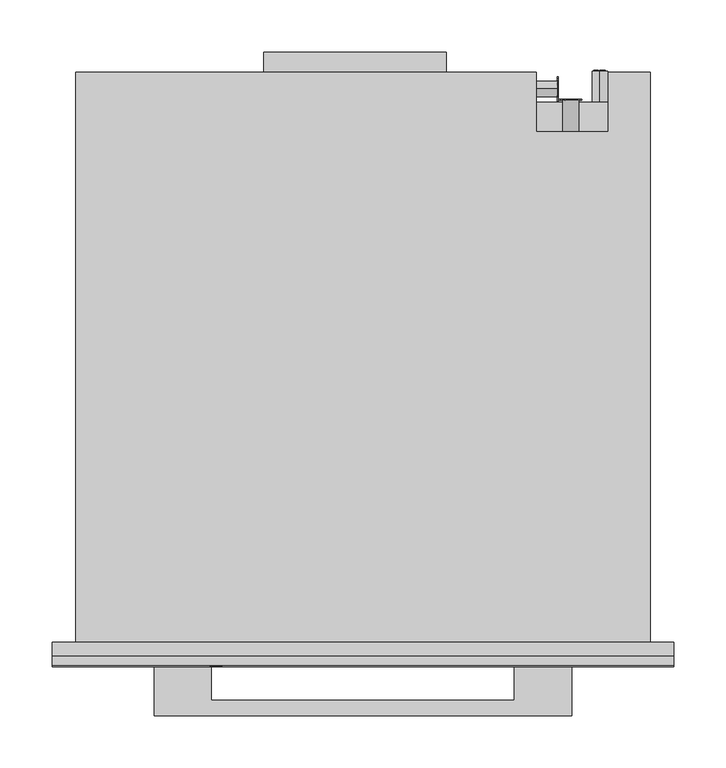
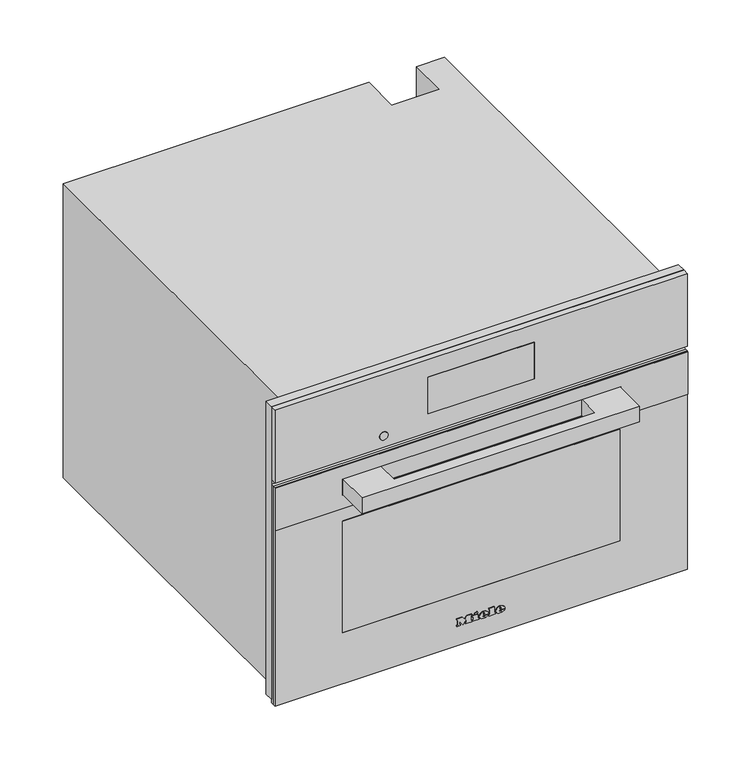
"""IFC4 building model written with IfcOpenShell, lengths in millimetres: proxy geometry, 11876580_USA_DGC7845_EDST-CLST : 23784542_USA_11876580_DGC7845_EDST-CLST."""

from ifc_helpers import new_model, si_unit, point, frame, frame_2d, origin, place, context, project, spatial, polyline, circle_curve, ellipse_curve, trimmed, segment, composite_curve, outline, extrude, faceted_brep, source, transform, mapped, element, save
from ifc_brep_helpers import plane_surface, cylinder_surface, revolved_surface, extruded_surface, advanced_brep


def specialty_equipment_0c457f22(model_context):
    return source(origin(), model_context, "Body", "SolidModel", [
        extrude(outline(polyline([(455.0, 297.5), (455.0, -297.5), (9.0, -297.5), (9.0, 297.5), (455.0, 297.5)]), holes=[polyline([(344.0, -272.5), (344.0, 272.5), (27.0, 272.5), (27.0, -272.5), (344.0, -272.5)])]), frame((0.0, -13.0, 0.0), z_axis=(0.0, 1.0, 0.0), x_axis=(0.0, 0.0, 1.0)), (0.0, 0.0, 1.0), 13.0),
        extrude(outline(polyline([(-95.0, 565.0), (80.0, 565.0), (80.0, 546.0), (-95.0, 546.0), (-95.0, 565.0)])), frame((0.0, 0.0, 260.0), z_axis=(0.0, 0.0, 1.0), x_axis=(1.0, 0.0, 0.0)), (0.0, 0.0, 1.0), 1.0),
        extrude(outline(polyline([(519.6429442, 19.9943805), (518.3113439, 19.9943805), (522.3179353, 30.0448542), (523.3959224, 30.0448542), (527.4062166, 20.0), (526.0536081, 20.0), (524.9175759, 23.121223), (520.7810217, 23.121223), (519.6429442, 19.9943805)]), holes=[polyline([(521.2587176, 24.4336815), (524.43988, 24.4336815), (522.8492988, 28.8037675), (521.2587176, 24.4336815)])]), frame((186.0, 0.0, 0.0), z_axis=(1.0, 0.0, 0.0), x_axis=(0.0, 1.0, 0.0)), (0.0, 0.0, 1.0), 1.0),
        extrude(outline(polyline([(530.5321321, 20.0), (527.8018067, 30.0490432), (529.0968223, 30.0490432), (531.1602937, 21.4201336), (533.686646, 30.0556718), (535.5455392, 30.0556718), (538.1024658, 21.4662572), (540.1658975, 30.0556718), (541.4634812, 30.0556718), (538.7128319, 20.0), (537.3799359, 20.0), (534.6350025, 28.8403806), (532.048723, 20.0), (530.5321321, 20.0)])), frame((186.0, 0.0, 0.0), z_axis=(1.0, 0.0, 0.0), x_axis=(0.0, 1.0, 0.0)), (0.0, 0.0, 1.0), 1.0),
        extrude(outline(polyline([(383.0, 196.9217896), (383.0, 198.4267862), (393.0435673, 201.1942402), (393.0435673, 199.9014806), (384.4295103, 197.7797951), (393.0470645, 195.3087512), (393.0470645, 193.4373937), (384.4121052, 190.9191482), (393.0472266, 188.8443938), (393.0472266, 187.5376524), (383.0, 190.2769667), (383.0, 191.6257455), (391.8347238, 194.3884733), (383.0, 196.9217896)])), frame((0.0, 519.0, 0.0), z_axis=(0.0, 1.0, 0.0), x_axis=(0.0, 0.0, 1.0)), (0.0, 0.0, 1.0), 1.0),
        extrude(outline(polyline([(393.0468463, 209.521488), (393.0468463, 208.2566067), (388.129594, 208.2566067), (393.0474898, 203.1074328), (393.0474898, 201.3597489), (388.9313111, 205.6695027), (383.0, 201.1858157), (383.0, 202.7358731), (388.0700777, 206.5685235), (386.4282746, 208.2823622), (383.0, 208.2823622), (383.0, 209.521488), (393.0468463, 209.521488)])), frame((0.0, 519.0, 0.0), z_axis=(0.0, 1.0, 0.0), x_axis=(0.0, 0.0, 1.0)), (0.0, 0.0, 1.0), 1.0),
        advanced_brep(
        [(227.0, 547.0, 255.5), (227.0, 547.0, 240.5), (221.4098301, 547.0, 243.0), (225.5, 547.0, 243.0), (225.5, 547.0, 253.0), (224.4955303, 547.0, 253.0), (224.4955303, 547.0, 244.0), (221.0315043, 547.0, 244.0), (221.0315043, 547.0, 243.4582978), (232.0, 547.0, 243.0), (232.0, 547.0, 253.0), (227.0, 547.0, 253.0), (227.0, 547.0, 252.0), (231.0, 547.0, 252.0), (231.0, 547.0, 248.5), (228.0, 547.0, 248.5), (228.0, 547.0, 247.5), (231.0, 547.0, 247.5), (231.0, 547.0, 244.0), (227.0, 547.0, 244.0), (227.0, 547.0, 243.0), (227.0, 517.0, 240.5), (227.0, 517.0, 255.5), (232.0, 548.0, 253.0), (232.0, 548.0, 243.0), (227.0, 548.0, 243.0), (227.0, 548.0, 244.0), (231.0, 548.0, 244.0), (231.0, 548.0, 247.5), (228.0, 548.0, 247.5), (228.0, 548.0, 248.5), (231.0, 548.0, 248.5), (231.0, 548.0, 252.0), (227.0, 548.0, 252.0), (227.0, 548.0, 253.0), (225.5, 548.0, 243.0), (221.0315043, 548.0, 243.0), (221.0315043, 548.0, 244.0), (224.4955303, 548.0, 244.0), (224.4955303, 548.0, 253.0), (225.5, 548.0, 253.0), (221.0315043, 547.0, 243.0)],
        [
            (0, 1, circle_curve(frame((227.0, 547.0, 248.0), z_axis=(0.0, 1.0, 0.0), x_axis=(0.0, 0.0, 1.0)), 7.5)),
            (1, 2, circle_curve(frame((227.0, 547.0, 248.0), z_axis=(0.0, 1.0, 0.0), x_axis=(0.0, 0.0, 1.0)), 7.5)),
            (2, 3),
            (3, 4),
            (4, 5),
            (5, 6),
            (6, 7),
            (7, 8),
            (8, 0, circle_curve(frame((227.0, 547.0, 248.0), z_axis=(0.0, 1.0, 0.0), x_axis=(0.0, 0.0, 1.0)), 7.5)),
            (9, 10),
            (10, 11),
            (11, 12),
            (12, 13),
            (13, 14),
            (14, 15),
            (15, 16),
            (16, 17),
            (17, 18),
            (18, 19),
            (19, 20),
            (20, 9),
            (21, 22, circle_curve(frame((227.0, 517.0, 248.0), z_axis=(0.0, -1.0, 0.0), x_axis=(0.0, 0.0, 1.0)), 7.5)),
            (22, 21, circle_curve(frame((227.0, 517.0, 248.0), z_axis=(0.0, -1.0, 0.0), x_axis=(0.0, 0.0, 1.0)), 7.5)),
            (0, 22),
            (21, 1),
            (8, 2, circle_curve(frame((227.0, 547.0, 248.0), z_axis=(0.0, -1.0, 0.0), x_axis=(0.0, 0.0, 1.0)), 7.5)),
            (23, 24),
            (24, 25),
            (25, 26),
            (26, 27),
            (27, 28),
            (28, 29),
            (29, 30),
            (30, 31),
            (31, 32),
            (32, 33),
            (33, 34),
            (34, 23),
            (35, 36),
            (36, 37),
            (37, 38),
            (38, 39),
            (39, 40),
            (40, 35),
            (8, 41),
            (41, 2),
            (23, 10),
            (9, 24),
            (20, 25),
            (19, 26),
            (18, 27),
            (17, 28),
            (16, 29),
            (15, 30),
            (14, 31),
            (13, 32),
            (12, 33),
            (11, 34),
            (35, 3),
            (41, 36),
            (7, 37),
            (6, 38),
            (5, 39),
            (4, 40),
        ],
        [
            plane_surface(frame((227.0, 547.0, 255.5), z_axis=(0.0, 1.0, 0.0), x_axis=(1.0, 0.0, 0.0))),
            plane_surface(frame((227.0, 517.0, 255.5), z_axis=(0.0, -1.0, 0.0), x_axis=(-1.0, 0.0, 0.0))),
            cylinder_surface(frame((227.0, 547.0, 248.0), z_axis=(0.0, -1.0, 0.0), x_axis=(0.0, 0.0, 1.0)), 7.5),
            plane_surface(frame((232.0, 548.0, 253.0), z_axis=(0.0, 1.0, 0.0), x_axis=(0.0, 0.0, -1.0))),
            plane_surface(frame((232.0, 547.0, 253.0), z_axis=(0.0, -1.0, 0.0), x_axis=(0.0, 0.0, 1.0))),
            plane_surface(frame((232.0, 548.0, 253.0), z_axis=(1.0, 0.0, 0.0), x_axis=(0.0, -1.0, 0.0))),
            plane_surface(frame((232.0, 548.0, 243.0), z_axis=(0.0, 0.0, -1.0), x_axis=(0.0, -1.0, 0.0))),
            plane_surface(frame((227.0, 548.0, 243.0), z_axis=(-1.0, 0.0, 0.0), x_axis=(0.0, -1.0, 0.0))),
            plane_surface(frame((227.0, 548.0, 244.0), z_axis=(0.0, 0.0, 1.0), x_axis=(0.0, -1.0, 0.0))),
            plane_surface(frame((231.0, 548.0, 244.0), z_axis=(-1.0, 0.0, 0.0), x_axis=(0.0, -1.0, 0.0))),
            plane_surface(frame((231.0, 548.0, 247.5), z_axis=(0.0, 0.0, -1.0), x_axis=(0.0, -1.0, 0.0))),
            plane_surface(frame((228.0, 548.0, 247.5), z_axis=(-1.0, 0.0, 0.0), x_axis=(0.0, -1.0, 0.0))),
            plane_surface(frame((228.0, 548.0, 248.5), z_axis=(0.0, 0.0, 1.0), x_axis=(0.0, -1.0, 0.0))),
            plane_surface(frame((231.0, 548.0, 248.5), z_axis=(-1.0, 0.0, 0.0), x_axis=(0.0, -1.0, 0.0))),
            plane_surface(frame((231.0, 548.0, 252.0), z_axis=(0.0, 0.0, -1.0), x_axis=(0.0, -1.0, 0.0))),
            plane_surface(frame((227.0, 548.0, 252.0), z_axis=(-1.0, 0.0, 0.0), x_axis=(0.0, -1.0, 0.0))),
            plane_surface(frame((227.0, 548.0, 253.0), z_axis=(0.0, 0.0, 1.0), x_axis=(0.0, -1.0, 0.0))),
            plane_surface(frame((225.5, 548.0, 243.0), z_axis=(0.0, 0.0, -1.0), x_axis=(0.0, -1.0, 0.0))),
            plane_surface(frame((221.0315043, 548.0, 243.0), z_axis=(-1.0, 0.0, 0.0), x_axis=(0.0, -1.0, 0.0))),
            plane_surface(frame((221.0315043, 548.0, 244.0), z_axis=(0.0, 0.0, 1.0), x_axis=(0.0, -1.0, 0.0))),
            plane_surface(frame((224.4955303, 548.0, 244.0), z_axis=(-1.0, 0.0, 0.0), x_axis=(0.0, -1.0, 0.0))),
            plane_surface(frame((224.4955303, 548.0, 253.0), z_axis=(0.0, 0.0, 1.0), x_axis=(0.0, -1.0, 0.0))),
            plane_surface(frame((225.5, 548.0, 253.0), z_axis=(1.0, 0.0, 0.0), x_axis=(0.0, -1.0, 0.0))),
        ],
        [
            (0, [[1, 2, 3, 4, 5, 6, 7, 8, 9], [10, 11, 12, 13, 14, 15, 16, 17, 18, 19, 20, 21]]),
            (1, [[22, 23]]),
            (2, [[-1, 24, -22, 25]]),
            (2, [[-23, -24, -9, 26, -2, -25]]),
            (3, [[27, 28, 29, 30, 31, 32, 33, 34, 35, 36, 37, 38]]),
            (3, [[39, 40, 41, 42, 43, 44]]),
            (4, [[45, 46, -26]]),
            (5, [[-27, 47, -10, 48]]),
            (6, [[-28, -48, -21, 49]]),
            (7, [[-29, -49, -20, 50]]),
            (8, [[-30, -50, -19, 51]]),
            (9, [[-31, -51, -18, 52]]),
            (10, [[-32, -52, -17, 53]]),
            (11, [[-33, -53, -16, 54]]),
            (12, [[-34, -54, -15, 55]]),
            (13, [[-35, -55, -14, 56]]),
            (14, [[-36, -56, -13, 57]]),
            (15, [[-37, -57, -12, 58]]),
            (16, [[-38, -58, -11, -47]]),
            (17, [[-39, 59, -3, -46, 60]]),
            (18, [[-40, -60, -45, -8, 61]]),
            (19, [[-41, -61, -7, 62]]),
            (20, [[-42, -62, -6, 63]]),
            (21, [[-43, -63, -5, 64]]),
            (22, [[-44, -64, -4, -59]]),
        ],
    ),
        extrude(outline(composite_curve([segment(trimmed(circle_curve(frame_2d((388.0, 199.0)), 7.5), [point((388.0, 206.5))], [point((388.0, 191.5))], False, "CARTESIAN"), True, "CONTINUOUS"), segment(trimmed(circle_curve(frame_2d((388.0, 199.0)), 7.5), [point((388.0, 191.5))], [point((388.0, 206.5))], False, "CARTESIAN"), True, "CONTINUOUS")], self_intersect=False)), frame((0.0, 489.0, 0.0), z_axis=(0.0, 1.0, 0.0), x_axis=(0.0, 0.0, 1.0)), (0.0, 0.0, 1.0), 30.0),
        extrude(outline(composite_curve([segment(trimmed(circle_curve(frame_2d((530.0, 25.0)), 7.5), [point((530.0, 17.5))], [point((530.0, 32.5))], False, "CARTESIAN"), True, "CONTINUOUS"), segment(trimmed(circle_curve(frame_2d((530.0, 25.0)), 7.5), [point((530.0, 32.5))], [point((530.0, 17.5))], False, "CARTESIAN"), True, "CONTINUOUS")], self_intersect=False)), frame((166.0, 0.0, 0.0), z_axis=(1.0, 0.0, 0.0), x_axis=(0.0, 1.0, 0.0)), (0.0, 0.0, 1.0), 20.0),
        faceted_brep([(-275.0, 546.0, 0.0), (-275.0, 546.0, 448.0), (166.0, 546.0, 448.0), (166.0, 546.0, 0.0), (235.0, 546.0, 448.0), (275.0, 546.0, 448.0), (275.0, 546.0, 338.0), (235.0, 546.0, 338.0), (275.0, 0.0, 448.0), (-275.0, 0.0, 448.0), (-275.0, 0.0, 0.0), (275.0, 0.0, 0.0), (-272.5, 0.0, 344.0), (272.5, 0.0, 344.0), (272.5, 0.0, 27.0), (-272.5, 0.0, 27.0), (235.0, 489.0, 448.0), (166.0, 489.0, 448.0), (166.0, 517.0, 0.0), (275.0, 517.0, 0.0), (275.0, 517.0, 338.0), (272.5, 17.0, 344.0), (-272.5, 17.0, 344.0), (-272.5, 17.0, 27.0), (272.5, 17.0, 27.0), (231.0, 17.0, 307.0), (231.0, 17.0, 65.0), (-231.0, 17.0, 65.0), (-231.0, 17.0, 307.0), (231.0, 411.0, 307.0), (-231.0, 411.0, 307.0), (-231.0, 411.0, 65.0), (231.0, 411.0, 65.0), (235.0, 489.0, 337.0), (166.0, 489.0, 337.0), (166.0, 517.0, 337.0), (235.0, 517.0, 337.0), (235.0, 517.0, 338.0)], [[[0, 1, 2, 3]], [[4, 5, 6, 7]], [[8, 9, 10, 11], [12, 13, 14, 15]], [[9, 8, 5, 4, 16, 17, 2, 1]], [[1, 0, 10, 9]], [[11, 10, 0, 3, 18, 19]], [[8, 11, 19, 20, 6, 5]], [[21, 22, 23, 24], [25, 26, 27, 28]], [[22, 21, 13, 12]], [[23, 22, 12, 15]], [[24, 23, 15, 14]], [[21, 24, 14, 13]], [[29, 30, 31, 32]], [[29, 32, 26, 25]], [[32, 31, 27, 26]], [[31, 30, 28, 27]], [[30, 29, 25, 28]], [[16, 33, 34, 17]], [[17, 34, 35, 18, 3, 2]], [[34, 33, 36, 35]], [[33, 16, 4, 7, 37, 36]], [[37, 20, 19, 18, 35, 36]], [[20, 37, 7, 6]]]),
        advanced_brep(
        [(26.2998, -23.0, 36.7018), (26.2998, -23.0, 37.8532), (33.9264, -23.0, 37.8532), (20.6568, -23.0, 37.8532), (23.7918, -23.0, 34.0), (33.7326, -23.0, 36.7018), (30.2898, -23.0, 36.7018), (27.5766, -23.0, 35.425), (26.2998, -23.0, 39.3124), (26.2998, -23.0, 40.555), (28.2492, -23.0, 40.555), (28.2492, -23.0, 39.3124), (26.2998, -22.0, 36.7018), (27.5766, -22.0, 35.425), (30.2898, -22.0, 36.7018), (33.7326, -22.0, 36.7018), (23.7918, -22.0, 34.0), (20.6568, -22.0, 37.8532), (33.9264, -22.0, 37.8532), (26.2998, -22.0, 37.8532), (26.2998, -22.0, 39.3124), (28.2492, -22.0, 39.3124), (28.2492, -22.0, 40.555), (26.2998, -22.0, 40.555)],
        [
            (0, 1),
            (1, 2),
            (2, 3, ellipse_curve(frame((27.2916, -23.0, 37.8532), z_axis=(0.0, -1.0, 0.0), x_axis=(-1.0, 0.0, 0.0)), 6.6348, 5.4834)),
            (3, 4, circle_curve(frame((25.0686622, -23.0, 38.2408), z_axis=(0.0, -1.0, 0.0), x_axis=(0.0, 0.0, -1.0)), 4.4288556)),
            (4, 5, circle_curve(frame((27.1587808, -23.0, 41.2504), z_axis=(0.0, -1.0, 0.0), x_axis=(0.0, 0.0, -1.0)), 7.9940516)),
            (5, 6),
            (6, 7, circle_curve(frame((28.1338588, -23.0, 37.762), z_axis=(0.0, 1.0, 0.0), x_axis=(0.0, 0.0, -1.0)), 2.4025208)),
            (7, 0, circle_curve(frame((27.5766, -23.0, 36.7018), z_axis=(0.0, 1.0, 0.0), x_axis=(0.0, 0.0, -1.0)), 1.2768)),
            (8, 9),
            (9, 10, circle_curve(frame((27.2745, -23.0, 40.555), z_axis=(0.0, 1.0, 0.0), x_axis=(0.0, 0.0, -1.0)), 0.9747)),
            (10, 11),
            (11, 8),
            (12, 13, circle_curve(frame((27.5766, -22.0, 36.7018), z_axis=(0.0, -1.0, 0.0), x_axis=(0.0, 0.0, -1.0)), 1.2768)),
            (13, 14, circle_curve(frame((28.1338588, -22.0, 37.762), z_axis=(0.0, -1.0, 0.0), x_axis=(0.0, 0.0, -1.0)), 2.4025208)),
            (14, 15),
            (15, 16, circle_curve(frame((27.1587808, -22.0, 41.2504), z_axis=(0.0, 1.0, 0.0), x_axis=(0.0, 0.0, -1.0)), 7.9940516)),
            (16, 17, circle_curve(frame((25.0686622, -22.0, 38.2408), z_axis=(0.0, 1.0, 0.0), x_axis=(0.0, 0.0, -1.0)), 4.4288556)),
            (17, 18, ellipse_curve(frame((27.2916, -22.0, 37.8532), z_axis=(0.0, 1.0, 0.0), x_axis=(-1.0, 0.0, 0.0)), 6.6348, 5.4834)),
            (18, 19),
            (19, 12),
            (20, 21),
            (21, 22),
            (22, 23, circle_curve(frame((27.2745, -22.0, 40.555), z_axis=(0.0, -1.0, 0.0), x_axis=(0.0, 0.0, -1.0)), 0.9747)),
            (23, 20),
            (0, 12),
            (19, 1),
            (18, 2),
            (5, 15),
            (14, 6),
            (17, 3),
            (13, 7),
            (16, 4),
            (8, 20),
            (23, 9),
            (22, 10),
            (21, 11),
        ],
        [
            plane_surface(frame((26.2998, -23.0, 37.8532), z_axis=(0.0, -1.0, 0.0), x_axis=(0.0, 0.0, 1.0))),
            plane_surface(frame((26.2998, -22.0, 37.8532), z_axis=(0.0, 1.0, 0.0), x_axis=(0.0, 0.0, -1.0))),
            plane_surface(frame((26.2998, -23.0, 36.7018), z_axis=(1.0, 0.0, 0.0), x_axis=(0.0, 1.0, 0.0))),
            plane_surface(frame((26.2998, -23.0, 37.8532), z_axis=(0.0, 0.0, -1.0), x_axis=(0.0, 1.0, 0.0))),
            plane_surface(frame((33.7326, -23.0, 36.7018), z_axis=(0.0, 0.0, 1.0), x_axis=(0.0, 1.0, 0.0))),
            extruded_surface(trimmed(ellipse_curve(frame((27.2916, -21.0, 37.8532), z_axis=(0.0, -1.0, 0.0), x_axis=(-1.0, 0.0, 0.0)), 6.6348, 5.4834), [point((33.9264, -21.0, 37.8532))], [point((20.6568, -21.0, 37.8532))], True, "CARTESIAN"), (0.0, -1.0, 0.0), 1.0),
            revolved_surface(polyline([(28.1338588, -22.0, 35.3594792), (28.1338588, -23.0, 35.3594792)]), (28.1338588, -22.0, 37.762), (0.0, 1.0, 0.0)),
            revolved_surface(polyline([(27.5766, -22.0, 35.425), (27.5766, -23.0, 35.425)]), (27.5766, -22.0, 36.7018), (0.0, 1.0, 0.0)),
            cylinder_surface(frame((25.0686622, -22.0, 38.2408), z_axis=(0.0, -1.0, 0.0), x_axis=(0.0, 0.0, -1.0)), 4.4288556),
            cylinder_surface(frame((27.1587808, -22.0, 41.2504), z_axis=(0.0, -1.0, 0.0), x_axis=(0.0, 0.0, -1.0)), 7.9940516),
            plane_surface(frame((26.2998, -23.0, 39.3124), z_axis=(1.0, 0.0, 0.0), x_axis=(0.0, 1.0, 0.0))),
            revolved_surface(polyline([(27.2745, -22.0, 39.5803), (27.2745, -23.0, 39.5803)]), (27.2745, -22.0, 40.555), (0.0, 1.0, 0.0)),
            plane_surface(frame((28.2492, -23.0, 40.555), z_axis=(-1.0, 0.0, 0.0), x_axis=(0.0, 1.0, 0.0))),
            plane_surface(frame((28.2492, -23.0, 39.3124), z_axis=(0.0, 0.0, 1.0), x_axis=(0.0, 1.0, 0.0))),
        ],
        [
            (0, [[1, 2, 3, 4, 5, 6, 7, 8], [9, 10, 11, 12]]),
            (1, [[13, 14, 15, 16, 17, 18, 19, 20], [21, 22, 23, 24]]),
            (2, [[-1, 25, -20, 26]]),
            (3, [[-2, -26, -19, 27]]),
            (4, [[-6, 28, -15, 29]]),
            (5, [[-3, -27, -18, 30]]),
            (6, [[-7, -29, -14, 31]]),
            (7, [[-8, -31, -13, -25]]),
            (8, [[-4, -30, -17, 32]]),
            (9, [[-5, -32, -16, -28]]),
            (10, [[-9, 33, -24, 34]]),
            (11, [[-10, -34, -23, 35]]),
            (12, [[-11, -35, -22, 36]]),
            (13, [[-12, -36, -21, -33]]),
        ],
    ),
        advanced_brep(
        [(2.508, -23.0, 36.7018), (2.508, -23.0, 37.8532), (10.1346, -23.0, 37.8532), (-3.135, -23.0, 37.8532), (0.0, -23.0, 34.0), (9.9408, -23.0, 36.7018), (6.498, -23.0, 36.7018), (3.7848, -23.0, 35.425), (2.508, -23.0, 39.3124), (2.508, -23.0, 40.555), (4.4574, -23.0, 40.555), (4.4574, -23.0, 39.3124), (2.508, -22.0, 36.7018), (3.7848, -22.0, 35.425), (6.498, -22.0, 36.7018), (9.9408, -22.0, 36.7018), (0.0, -22.0, 34.0), (-3.135, -22.0, 37.8532), (10.1346, -22.0, 37.8532), (2.508, -22.0, 37.8532), (2.508, -22.0, 39.3124), (4.4574, -22.0, 39.3124), (4.4574, -22.0, 40.555), (2.508, -22.0, 40.555)],
        [
            (0, 1),
            (1, 2),
            (2, 3, ellipse_curve(frame((3.4998, -23.0, 37.8532), z_axis=(0.0, -1.0, 0.0), x_axis=(-1.0, 0.0, 0.0)), 6.6348, 5.4834)),
            (3, 4, circle_curve(frame((1.2768622, -23.0, 38.2408), z_axis=(0.0, -1.0, 0.0), x_axis=(0.0, 0.0, -1.0)), 4.4288556)),
            (4, 5, circle_curve(frame((3.3669808, -23.0, 41.2504), z_axis=(0.0, -1.0, 0.0), x_axis=(0.0, 0.0, -1.0)), 7.9940516)),
            (5, 6),
            (6, 7, circle_curve(frame((4.3420588, -23.0, 37.762), z_axis=(0.0, 1.0, 0.0), x_axis=(0.0, 0.0, -1.0)), 2.4025208)),
            (7, 0, circle_curve(frame((3.7848, -23.0, 36.7018), z_axis=(0.0, 1.0, 0.0), x_axis=(0.0, 0.0, -1.0)), 1.2768)),
            (8, 9),
            (9, 10, circle_curve(frame((3.4827, -23.0, 40.555), z_axis=(0.0, 1.0, 0.0), x_axis=(0.0, 0.0, -1.0)), 0.9747)),
            (10, 11),
            (11, 8),
            (12, 13, circle_curve(frame((3.7848, -22.0, 36.7018), z_axis=(0.0, -1.0, 0.0), x_axis=(0.0, 0.0, -1.0)), 1.2768)),
            (13, 14, circle_curve(frame((4.3420588, -22.0, 37.762), z_axis=(0.0, -1.0, 0.0), x_axis=(0.0, 0.0, -1.0)), 2.4025208)),
            (14, 15),
            (15, 16, circle_curve(frame((3.3669808, -22.0, 41.2504), z_axis=(0.0, 1.0, 0.0), x_axis=(0.0, 0.0, -1.0)), 7.9940516)),
            (16, 17, circle_curve(frame((1.2768622, -22.0, 38.2408), z_axis=(0.0, 1.0, 0.0), x_axis=(0.0, 0.0, -1.0)), 4.4288556)),
            (17, 18, ellipse_curve(frame((3.4998, -22.0, 37.8532), z_axis=(0.0, 1.0, 0.0), x_axis=(-1.0, 0.0, 0.0)), 6.6348, 5.4834)),
            (18, 19),
            (19, 12),
            (20, 21),
            (21, 22),
            (22, 23, circle_curve(frame((3.4827, -22.0, 40.555), z_axis=(0.0, -1.0, 0.0), x_axis=(0.0, 0.0, -1.0)), 0.9747)),
            (23, 20),
            (0, 12),
            (19, 1),
            (18, 2),
            (5, 15),
            (14, 6),
            (17, 3),
            (13, 7),
            (16, 4),
            (8, 20),
            (23, 9),
            (22, 10),
            (21, 11),
        ],
        [
            plane_surface(frame((2.508, -23.0, 37.8532), z_axis=(0.0, -1.0, 0.0), x_axis=(0.0, 0.0, 1.0))),
            plane_surface(frame((2.508, -22.0, 37.8532), z_axis=(0.0, 1.0, 0.0), x_axis=(0.0, 0.0, -1.0))),
            plane_surface(frame((2.508, -23.0, 36.7018), z_axis=(1.0, 0.0, 0.0), x_axis=(0.0, 1.0, 0.0))),
            plane_surface(frame((2.508, -23.0, 37.8532), z_axis=(0.0, 0.0, -1.0), x_axis=(0.0, 1.0, 0.0))),
            plane_surface(frame((9.9408, -23.0, 36.7018), z_axis=(0.0, 0.0, 1.0), x_axis=(0.0, 1.0, 0.0))),
            extruded_surface(trimmed(ellipse_curve(frame((3.4998, -21.0, 37.8532), z_axis=(0.0, -1.0, 0.0), x_axis=(-1.0, 0.0, 0.0)), 6.6348, 5.4834), [point((10.1346, -21.0, 37.8532))], [point((-3.135, -21.0, 37.8532))], True, "CARTESIAN"), (0.0, -1.0, 0.0), 1.0),
            revolved_surface(polyline([(4.3420588, -22.0, 35.3594792), (4.3420588, -23.0, 35.3594792)]), (4.3420588, -22.0, 37.762), (0.0, 1.0, 0.0)),
            revolved_surface(polyline([(3.7848, -22.0, 35.425), (3.7848, -23.0, 35.425)]), (3.7848, -22.0, 36.7018), (0.0, 1.0, 0.0)),
            cylinder_surface(frame((1.2768622, -22.0, 38.2408), z_axis=(0.0, -1.0, 0.0), x_axis=(0.0, 0.0, -1.0)), 4.4288556),
            cylinder_surface(frame((3.3669808, -22.0, 41.2504), z_axis=(0.0, -1.0, 0.0), x_axis=(0.0, 0.0, -1.0)), 7.9940516),
            plane_surface(frame((2.508, -23.0, 39.3124), z_axis=(1.0, 0.0, 0.0), x_axis=(0.0, 1.0, 0.0))),
            revolved_surface(polyline([(3.4827, -22.0, 39.5803), (3.4827, -23.0, 39.5803)]), (3.4827, -22.0, 40.555), (0.0, 1.0, 0.0)),
            plane_surface(frame((4.4574, -23.0, 40.555), z_axis=(-1.0, 0.0, 0.0), x_axis=(0.0, 1.0, 0.0))),
            plane_surface(frame((4.4574, -23.0, 39.3124), z_axis=(0.0, 0.0, 1.0), x_axis=(0.0, 1.0, 0.0))),
        ],
        [
            (0, [[1, 2, 3, 4, 5, 6, 7, 8], [9, 10, 11, 12]]),
            (1, [[13, 14, 15, 16, 17, 18, 19, 20], [21, 22, 23, 24]]),
            (2, [[-1, 25, -20, 26]]),
            (3, [[-2, -26, -19, 27]]),
            (4, [[-6, 28, -15, 29]]),
            (5, [[-3, -27, -18, 30]]),
            (6, [[-7, -29, -14, 31]]),
            (7, [[-8, -31, -13, -25]]),
            (8, [[-4, -30, -17, 32]]),
            (9, [[-5, -32, -16, -28]]),
            (10, [[-9, 33, -24, 34]]),
            (11, [[-10, -34, -23, 35]]),
            (12, [[-11, -35, -22, 36]]),
            (13, [[-12, -36, -21, -33]]),
        ],
    ),
        extrude(outline(polyline([(44.7274, -9.9522), (42.8806, -9.0858), (44.6818, -5.2212), (46.5286, -6.0762), (44.7274, -9.9522)])), frame((0.0, -23.0, 0.0), z_axis=(0.0, 1.0, 0.0), x_axis=(0.0, 0.0, 1.0)), (0.0, 0.0, 1.0), 1.0),
        extrude(outline(polyline([(42.6298, -12.768), (40.5892, -12.768), (40.5892, -11.4114), (35.9152, -11.4114), (35.9152, -12.768), (34.0, -12.768), (34.0, -3.7734), (35.9152, -3.7734), (35.9152, -5.0958), (42.6298, -5.0958), (42.6298, -12.768)])), frame((0.0, -23.0, 0.0), z_axis=(0.0, 1.0, 0.0), x_axis=(0.0, 0.0, 1.0)), (0.0, 0.0, 1.0), 1.0),
        extrude(outline(polyline([(43.5418, 10.773), (43.5418, 12.141), (35.9152, 12.141), (35.9152, 10.773), (34.0, 10.773), (34.0, 20.0184), (35.9152, 20.0184), (35.9152, 18.6162), (45.4, 18.6162), (45.4, 10.773), (43.5418, 10.773)])), frame((0.0, -23.0, 0.0), z_axis=(0.0, 1.0, 0.0), x_axis=(0.0, 0.0, 1.0)), (0.0, 0.0, 1.0), 1.0),
        extrude(outline(polyline([(43.5418, -35.4882), (43.5418, -34.1088), (35.9152, -34.1088), (35.9152, -35.4882), (34.0, -35.4882), (34.0, -30.4722), (35.9152, -30.4722), (35.9152, -31.8402), (40.7429247, -31.8402), (34.0, -26.7444), (40.9402223, -21.6258), (35.9152, -21.6258), (35.9152, -23.028), (34.0, -23.028), (34.0, -13.9308), (35.9152, -13.9308), (35.9152, -15.3786), (43.5418, -15.3786), (43.5418, -13.9308), (45.4, -13.9308), (45.4, -20.8734), (41.125, -24.2022), (45.4, -27.5424), (45.4, -35.4882), (43.5418, -35.4882)])), frame((0.0, -23.0, 0.0), z_axis=(0.0, 1.0, 0.0), x_axis=(0.0, 0.0, 1.0)), (0.0, 0.0, 1.0), 1.0),
        extrude(outline(composite_curve([segment(trimmed(circle_curve(frame_2d((361.0, -140.5745637)), 6.0), [point((361.0, -146.5745637))], [point((361.0, -134.5745637))], False, "CARTESIAN"), True, "CONTINUOUS"), segment(trimmed(circle_curve(frame_2d((361.0, -140.5745637)), 6.0), [point((361.0, -134.5745637))], [point((361.0, -146.5745637))], False, "CARTESIAN"), True, "CONTINUOUS")], self_intersect=False)), frame((0.0, -22.5, 0.0), z_axis=(0.0, 1.0, 0.0), x_axis=(0.0, 0.0, 1.0)), (0.0, 0.0, 1.0), 1.0),
        extrude(outline(polyline([(-76.5, -21.0), (76.5, -21.0), (76.5, -22.0), (-76.5, -22.0), (-76.5, -21.0)])), frame((0.0, 0.0, 372.0), z_axis=(0.0, 0.0, 1.0), x_axis=(1.0, 0.0, 0.0)), (0.0, 0.0, 1.0), 56.0),
        faceted_brep([(297.5, -22.0, 455.0), (-297.5, -22.0, 455.0), (-297.5, -22.0, 344.0), (297.5, -22.0, 344.0), (76.5, -22.0, 428.0), (76.5, -22.0, 372.0), (-76.5, -22.0, 372.0), (-76.5, -22.0, 428.0), (297.5, -13.0, 455.0), (297.5, -13.0, 344.0), (-297.5, -13.0, 344.0), (-297.5, -13.0, 455.0), (76.5, -21.0, 428.0), (-76.5, -21.0, 428.0), (-76.5, -21.0, 372.0), (76.5, -21.0, 372.0)], [[[0, 1, 2, 3], [4, 5, 6, 7]], [[8, 9, 10, 11]], [[1, 0, 8, 11]], [[2, 1, 11, 10]], [[3, 2, 10, 9]], [[0, 3, 9, 8]], [[12, 13, 14, 15]], [[12, 15, 5, 4]], [[15, 14, 6, 5]], [[14, 13, 7, 6]], [[13, 12, 4, 7]]]),
        extrude(outline(polyline([(200.0, -22.0), (-200.0, -22.0), (-200.0, -18.0), (200.0, -18.0), (200.0, -22.0)])), frame((0.0, 0.0, 82.0), z_axis=(0.0, 0.0, 1.0), x_axis=(1.0, 0.0, 0.0)), (0.0, 0.0, 1.0), 170.0),
        extrude(outline(polyline([(337.0, 297.5), (337.0, -297.5), (4.0, -297.5), (4.0, 297.5), (337.0, 297.5)]), holes=[polyline([(252.0, -200.0), (252.0, 200.0), (82.0, 200.0), (82.0, -200.0), (252.0, -200.0)])]), frame((0.0, -22.0, 0.0), z_axis=(0.0, 1.0, 0.0), x_axis=(0.0, 0.0, 1.0)), (0.0, 0.0, 1.0), 4.0),
        extrude(outline(polyline([(337.0, 297.5), (337.0, -297.5), (272.0, -297.5), (272.0, 297.5), (337.0, 297.5)]), holes=[polyline([(317.0, -200.5), (317.0, 200.5), (292.0, 200.5), (292.0, -200.5), (317.0, -200.5)])]), frame((0.0, -23.3, 0.0), z_axis=(0.0, 1.0, 0.0), x_axis=(0.0, 0.0, 1.0)), (0.0, 0.0, 1.0), 1.3),
        extrude(outline(polyline([(-200.0, -70.3), (-200.0, -22.0), (-145.0, -22.0), (-145.0, -55.3), (145.0, -55.3), (145.0, -22.0), (200.0, -22.0), (200.0, -70.3), (-200.0, -70.3)])), frame((0.0, 0.0, 292.5), z_axis=(0.0, 0.0, 1.0), x_axis=(1.0, 0.0, 0.0)), (0.0, 0.0, 1.0), 24.0),
        extrude(outline(polyline([(297.5, -18.0), (-297.5, -18.0), (-297.5, -13.0), (297.5, -13.0), (297.5, -18.0)])), frame((0.0, 0.0, 4.0), z_axis=(0.0, 0.0, 1.0), x_axis=(1.0, 0.0, 0.0)), (0.0, 0.0, 1.0), 333.0),
    ])


if __name__ == "__main__":
    model = new_model("IFC4")
    model_context = context("Model", 3, world=origin())
    ifc_project = project(units=[si_unit("LENGTHUNIT", "METRE", prefix="MILLI")], contexts=[model_context])
    site = spatial("IfcSite", under=ifc_project)
    building = spatial("IfcBuilding", under=site)
    placement = place(None, origin())
    specialty_equipment_shape = specialty_equipment_0c457f22(model_context)
    element("IfcBuildingElementProxy", 1, Name="11876580_USA_DGC7845_EDST-CLST : 23784542_USA_11876580_DGC7845_EDST-CLST", ObjectType="11876580_USA_DGC7845_EDST-CLST : 23784542_USA_11876580_DGC7845_EDST-CLST", at=placement, inside=building, context=model_context, shape_type="MappedRepresentation", body=[
        mapped(specialty_equipment_shape, transform((0.0, 0.0, 0.0), x_axis=(1.0, 0.0, 0.0), y_axis=(0.0, 1.0, 0.0), z_axis=(0.0, 0.0, 1.0))),
    ])
    save(model, "model.ifc")
